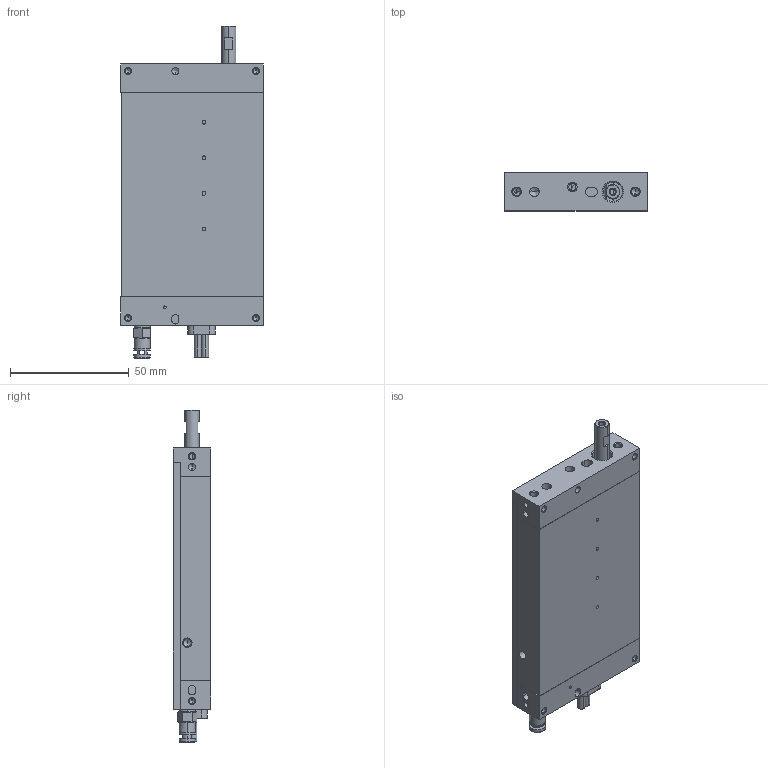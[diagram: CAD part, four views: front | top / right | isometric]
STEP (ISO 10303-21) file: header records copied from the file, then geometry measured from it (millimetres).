
FILE_DESCRIPTION (( 'STEP AP203' ), '1' );
FILE_NAME ('LCA16-010-XX-2_A.STEP', '2018-06-28T15:04:13', ( '' ), ( '' ), 'SwSTEP 2.0', 'SolidWorks 2018', '' );
FILE_SCHEMA (( 'CONFIG_CONTROL_DESIGN' ));
Length unit declared in the file: millimetre
Products named in the file (6): CABLE-G; AIR FITTING QUICK RELEASE; LCA16-010-XX-2_A; FEMALE SHAFT16-010; COVER LCA16-010; 11622-01
Assembly tree (5 placements, depth 2):
  LCA16-010-XX-2_A
    11622-01
    AIR FITTING QUICK RELEASE
    FEMALE SHAFT16-010
    COVER LCA16-010
    CABLE-G
Bounding box: 60 x 16 x 139.8 mm (x, y, z)
Volume: 44106.4 mm3; surface area: 39810.6 mm2
Topology: 5 solids, 5 shells, 412 faces, 1075 edges, 667 vertices
Faces by surface type: cylinder 170, plane 158, cone 72, bspline 12
Entity records: 13493 total; most frequent: CARTESIAN_POINT 2684, DIRECTION 2207, ORIENTED_EDGE 2090, EDGE_CURVE 1045, AXIS2_PLACEMENT_3D 817, VERTEX_POINT 666, LINE 573, VECTOR 573
